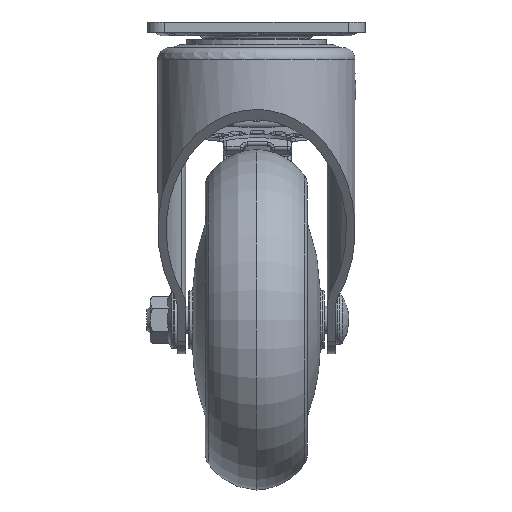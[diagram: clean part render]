
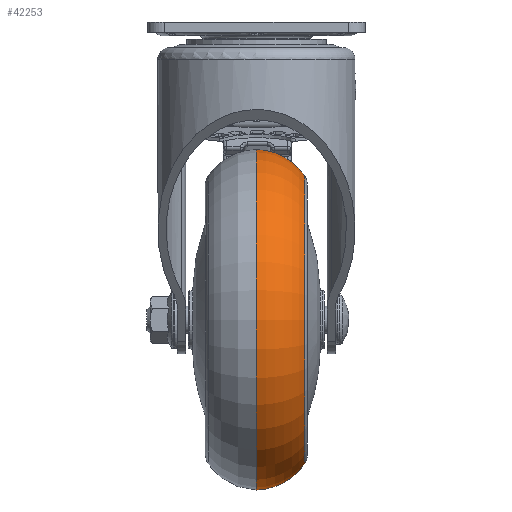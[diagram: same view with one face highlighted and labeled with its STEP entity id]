
A CAD part, left-side view. The second image highlights one B-rep face of the part: STEP entity #42253.
In plain terms, the highlighted toroidal (fillet/blend) face has major radius 32.404 mm and minor radius 17.6 mm.
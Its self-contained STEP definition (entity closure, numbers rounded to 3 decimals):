
#9347=TOROIDAL_SURFACE('',#44953,32.405,17.6);
#9776=FACE_BOUND('',#12774,.T.);
#10090=FACE_OUTER_BOUND('',#12773,.T.);
#12773=EDGE_LOOP('',(#28286));
#12774=EDGE_LOOP('',(#28287));
#15564=CIRCLE('',#44835,50.);
#15627=CIRCLE('',#44952,42.343);
#17600=VERTEX_POINT('',#62434);
#17663=VERTEX_POINT('',#62704);
#21680=EDGE_CURVE('',#17600,#17600,#15564,.T.);
#21746=EDGE_CURVE('',#17663,#17663,#15627,.T.);
#28286=ORIENTED_EDGE('',*,*,#21746,.T.);
#28287=ORIENTED_EDGE('',*,*,#21680,.F.);
#42253=ADVANCED_FACE('',(#10090,#9776),#9347,.T.);
#44835=AXIS2_PLACEMENT_3D('',#62435,#49426,#49427);
#44952=AXIS2_PLACEMENT_3D('',#62705,#49660,#49661);
#44953=AXIS2_PLACEMENT_3D('',#62706,#49662,#49663);
#49426=DIRECTION('center_axis',(0.,1.,0.));
#49427=DIRECTION('ref_axis',(1.,0.,0.));
#49660=DIRECTION('center_axis',(0.,1.,0.));
#49661=DIRECTION('ref_axis',(1.,0.,0.));
#49662=DIRECTION('center_axis',(0.,1.,0.));
#49663=DIRECTION('ref_axis',(0.,0.,1.));
#62434=CARTESIAN_POINT('',(13.005,61.675,-34.614));
#62435=CARTESIAN_POINT('Origin',(13.005,61.675,-84.614));
#62704=CARTESIAN_POINT('',(13.005,47.548,-42.271));
#62705=CARTESIAN_POINT('Origin',(13.005,47.548,-84.614));
#62706=CARTESIAN_POINT('Origin',(13.005,62.073,-84.614));
